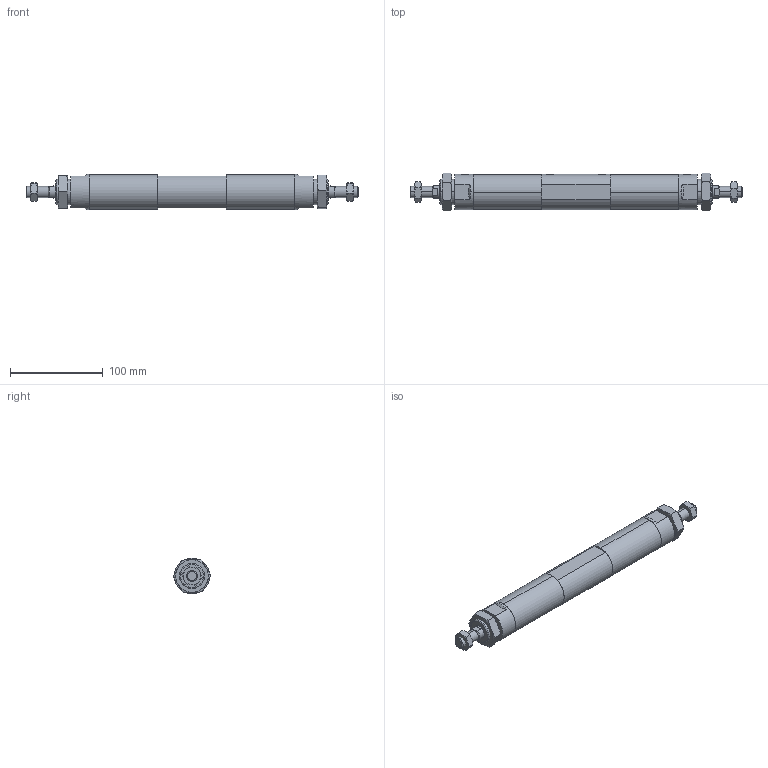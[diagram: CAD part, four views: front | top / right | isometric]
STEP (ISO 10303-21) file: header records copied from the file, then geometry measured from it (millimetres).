
FILE_DESCRIPTION (( 'STEP AP203' ), '1' );
FILE_NAME ('JGD7-32-25-25-N.STEP', '2016-04-19T07:24:35', ( '' ), ( '' ), 'SwSTEP 2.0', 'SolidWorks 2014', '' );
FILE_SCHEMA (( 'CONFIG_CONTROL_DESIGN' ));
Length unit declared in the file: millimetre
Products named in the file (6): M12x1.25-7mm; JGD7-32-25-25-N; JGLH2-32B; M27x2-10mm; JGD2-32MI; 32-25
Assembly tree (9 placements, depth 2):
  JGD7-32-25-25-N
    JGLH2-32B  x2
    32-25  x2
    JGD2-32MI
    M12x1.25-7mm  x2
    M27x2-10mm  x2
Bounding box: 358 x 40.4 x 38 mm (x, y, z)
Volume: 323518.2 mm3; surface area: 57916.3 mm2
Topology: 9 solids, 9 shells, 172 faces, 376 edges, 222 vertices
Faces by surface type: plane 60, torus 48, cylinder 38, cone 26
Entity records: 3785 total; most frequent: CARTESIAN_POINT 1084, DIRECTION 421, ORIENTED_EDGE 396, EDGE_CURVE 198, AXIS2_PLACEMENT_3D 179, VERTEX_POINT 120, EDGE_LOOP 102, FACE_OUTER_BOUND 93
